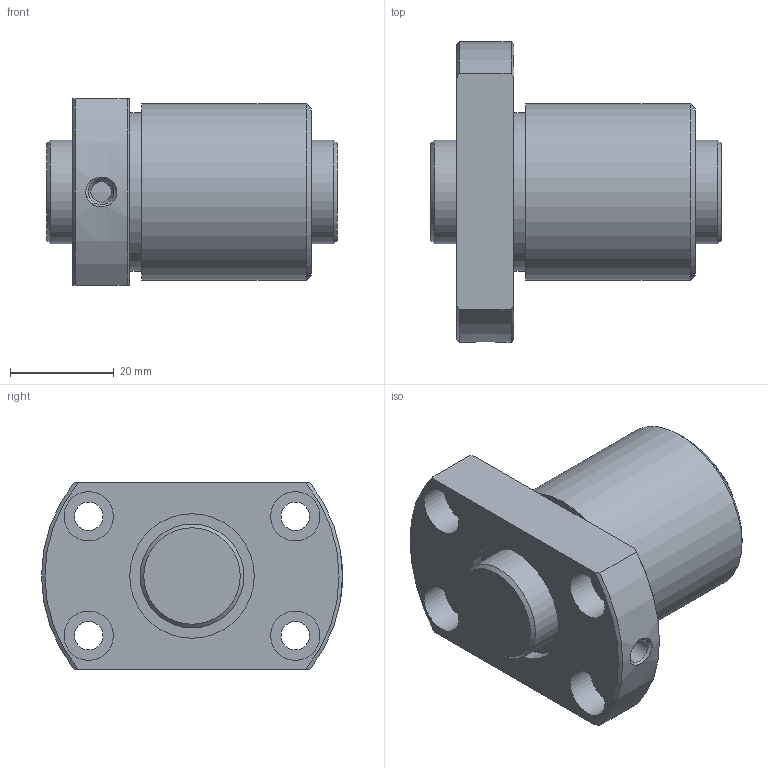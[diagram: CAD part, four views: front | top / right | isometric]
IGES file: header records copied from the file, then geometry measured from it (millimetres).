
Start section: Data from Parasolid IGES Translator 26.0.171, Copyright(c) 2006 Siemens PLM Software. All Rights Reserved.
Global section: file name: DK2005-3RRG1+56LC0_000.igs; native system: By Siemens PLM Incorporated; preprocessor: XPlus GENERIC/IGES 26.0.171; author: Noname; organization: Noname; date: 20250113.090836; units: millimetre
Bounding box: 56 x 58 x 36 mm (x, y, z)
Surface area: 17177.8 mm2 (no closed solid volume)
Topology: 0 solids, 0 shells, 41 faces, 174 edges, 143 vertices
Faces by surface type: revolution 27, extrusion 14
